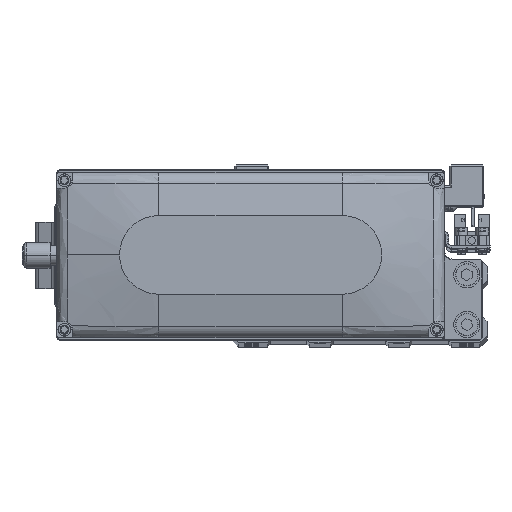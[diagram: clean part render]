
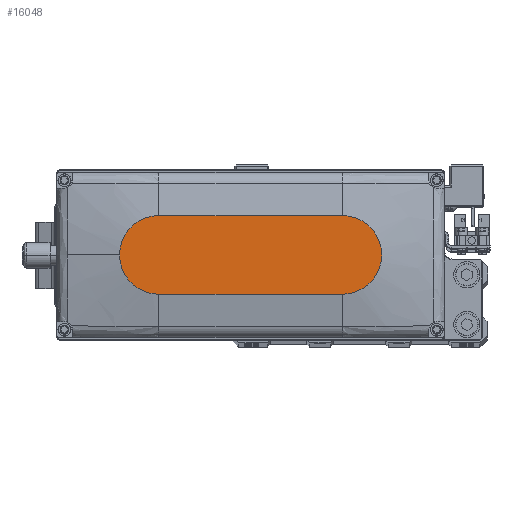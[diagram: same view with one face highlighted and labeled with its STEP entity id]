
A CAD part, top view. The second image highlights one B-rep face of the part: STEP entity #16048.
In plain terms, the highlighted planar face has unit normal (0, 0, 1).
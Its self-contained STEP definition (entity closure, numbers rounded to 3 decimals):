
#645 = DIRECTION ( 'NONE',  ( -1., 0., 0. ) ) ;
#1505 = VERTEX_POINT ( 'NONE', #26001 ) ;
#1792 = VERTEX_POINT ( 'NONE', #31441 ) ;
#2132 = EDGE_CURVE ( 'NONE', #1792, #29034, #17341, .T. ) ;
#2900 = DIRECTION ( 'NONE',  ( 1., 0., 0. ) ) ;
#3317 = ORIENTED_EDGE ( 'NONE', *, *, #12887, .T. ) ;
#3569 = CARTESIAN_POINT ( 'NONE',  ( 0., 0., 35. ) ) ;
#3827 = CARTESIAN_POINT ( 'NONE',  ( 35., 0., 35. ) ) ;
#5625 = CARTESIAN_POINT ( 'NONE',  ( -35., -15., 35. ) ) ;
#6043 = CIRCLE ( 'NONE', #30581, 15. ) ;
#6820 = DIRECTION ( 'NONE',  ( 1., 0., 0. ) ) ;
#6833 = VECTOR ( 'NONE', #645, 1000. ) ;
#10739 = ORIENTED_EDGE ( 'NONE', *, *, #23743, .T. ) ;
#11429 = CIRCLE ( 'NONE', #17059, 15. ) ;
#11542 = ORIENTED_EDGE ( 'NONE', *, *, #39642, .T. ) ;
#12253 = AXIS2_PLACEMENT_3D ( 'NONE', #3569, #16963, #30370 ) ;
#12887 = EDGE_CURVE ( 'NONE', #1505, #1792, #40916, .T. ) ;
#15088 = CARTESIAN_POINT ( 'NONE',  ( -35., 15., 35. ) ) ;
#16048 = ADVANCED_FACE ( 'NONE', ( #20289 ), #33660, .T. ) ;
#16713 = VECTOR ( 'NONE', #19032, 1000. ) ;
#16885 = CARTESIAN_POINT ( 'NONE',  ( -35., -15., 35. ) ) ;
#16963 = DIRECTION ( 'NONE',  ( 0., 0., 1. ) ) ;
#17059 = AXIS2_PLACEMENT_3D ( 'NONE', #19610, #33001, #2900 ) ;
#17238 = DIRECTION ( 'NONE',  ( 0., 0., 1. ) ) ;
#17341 = LINE ( 'NONE', #30743, #6833 ) ;
#19032 = DIRECTION ( 'NONE',  ( 1., 0., 0. ) ) ;
#19610 = CARTESIAN_POINT ( 'NONE',  ( -35., 0., 35. ) ) ;
#19955 = ORIENTED_EDGE ( 'NONE', *, *, #2132, .T. ) ;
#20289 = FACE_OUTER_BOUND ( 'NONE', #29695, .T. ) ;
#22013 = AXIS2_PLACEMENT_3D ( 'NONE', #3827, #17238, #30630 ) ;
#22695 = VERTEX_POINT ( 'NONE', #16885 ) ;
#23529 = CARTESIAN_POINT ( 'NONE',  ( 35., 0., 35. ) ) ;
#23743 = EDGE_CURVE ( 'NONE', #37105, #1505, #6043, .T. ) ;
#26001 = CARTESIAN_POINT ( 'NONE',  ( 50., 0., 35. ) ) ;
#29034 = VERTEX_POINT ( 'NONE', #15088 ) ;
#29695 = EDGE_LOOP ( 'NONE', ( #19955, #40614, #11542, #10739, #3317 ) ) ;
#30370 = DIRECTION ( 'NONE',  ( 1., 0., 0. ) ) ;
#30581 = AXIS2_PLACEMENT_3D ( 'NONE', #23529, #36912, #6820 ) ;
#30630 = DIRECTION ( 'NONE',  ( 1., 0., 0. ) ) ;
#30743 = CARTESIAN_POINT ( 'NONE',  ( -35., 15., 35. ) ) ;
#31441 = CARTESIAN_POINT ( 'NONE',  ( 35., 15., 35. ) ) ;
#31464 = EDGE_CURVE ( 'NONE', #29034, #22695, #11429, .T. ) ;
#33001 = DIRECTION ( 'NONE',  ( 0., 0., 1. ) ) ;
#33660 = PLANE ( 'NONE',  #12253 ) ;
#35720 = LINE ( 'NONE', #5625, #16713 ) ;
#36912 = DIRECTION ( 'NONE',  ( 0., 0., 1. ) ) ;
#37105 = VERTEX_POINT ( 'NONE', #41561 ) ;
#39642 = EDGE_CURVE ( 'NONE', #22695, #37105, #35720, .T. ) ;
#40614 = ORIENTED_EDGE ( 'NONE', *, *, #31464, .T. ) ;
#40916 = CIRCLE ( 'NONE', #22013, 15. ) ;
#41561 = CARTESIAN_POINT ( 'NONE',  ( 35., -15., 35. ) ) ;
